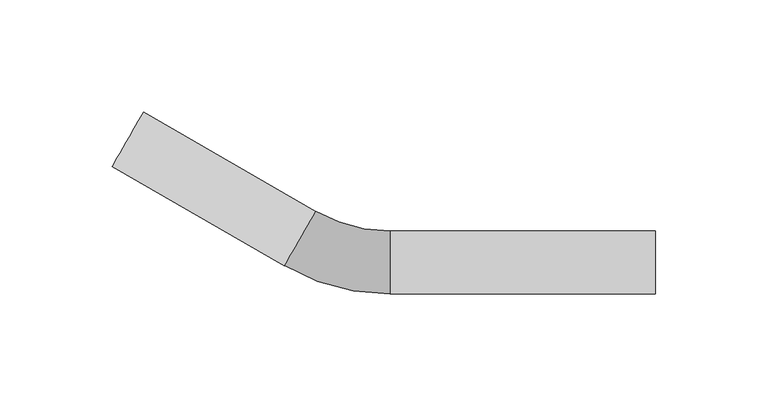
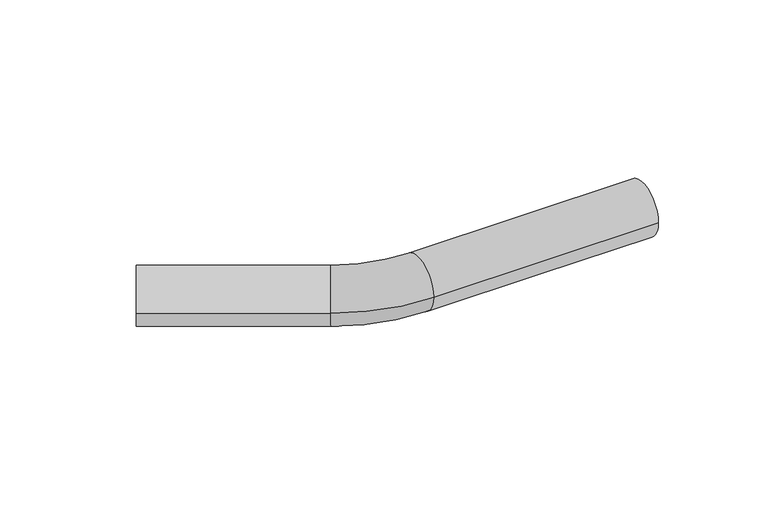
"""IFC4 building model written with IfcOpenShell, lengths in millimetres: pipe fitting geometry, VALTEC_VTi.955.I_Отвод безраструбный_нержавеющая : VTi.955.I."""

from ifc_helpers import new_model, si_unit, point, frame, origin, origin_2d, place, context, project, spatial, circle_curve, ellipse_curve, trimmed, segment, composite_curve, outline, extrude, source, transform, mapped, element, save
from ifc_brep_helpers import plane_surface, revolved_surface, advanced_brep


def pipe_fitting_fd74a3a0(model_context):
    return source(origin(), model_context, "Body", "SolidModel", [
        advanced_brep(
        [(21.6, -14.0, 0.0), (21.6, 14.0, 0.0), (-25.4, -1.406388, 0.0), (-11.4, 22.8423234, 0.0)],
        [
            (0, 1, circle_curve(frame((21.6, 0.0, 0.0), z_axis=(1.0, 0.0, 0.0), x_axis=(0.0, 1.0, 0.0)), 14.0)),
            (1, 0, circle_curve(frame((21.6, 0.0, 0.0), z_axis=(1.0, 0.0, 0.0), x_axis=(0.0, 1.0, 0.0)), 14.0)),
            (2, 3, circle_curve(frame((-18.4, 10.7179677, 0.0), z_axis=(-0.8660254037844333, 0.5000000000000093, 0.0), x_axis=(0.5000000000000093, 0.8660254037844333, 0.0)), 14.0)),
            (3, 2, circle_curve(frame((-18.4, 10.7179677, 0.0), z_axis=(-0.8660254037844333, 0.5000000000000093, 0.0), x_axis=(0.5000000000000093, 0.8660254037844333, 0.0)), 14.0)),
            (2, 0, circle_curve(frame((21.6, 80.0, 0.0), z_axis=(0.0, 0.0, 1.0), x_axis=(0.0, -1.0, 0.0)), 94.0)),
            (1, 3, circle_curve(frame((21.6, 80.0, 0.0), z_axis=(0.0, 0.0, -1.0), x_axis=(0.0, -1.0, 0.0)), 66.0)),
        ],
        [
            plane_surface(frame((21.6, 0.0, 0.0), z_axis=(1.0, 0.0, 0.0), x_axis=(0.0, 0.0, 1.0))),
            plane_surface(frame((-18.4, 10.7179677, 0.0), z_axis=(-0.8660254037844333, 0.5000000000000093, 0.0), x_axis=(0.0, 0.0, 1.0))),
            revolved_surface(trimmed(ellipse_curve(frame((21.6, 0.0, 0.0), z_axis=(-1.0, 0.0, 0.0), x_axis=(0.0, 1.0, 0.0)), 14.0, 14.0), [point((21.6, -14.0, 0.0))], [point((21.6, 14.0, 0.0))], True, "CARTESIAN"), (21.6, 80.0, 0.0), (0.0, 0.0, 1.0)),
            revolved_surface(trimmed(ellipse_curve(frame((21.6, 0.0, 0.0), z_axis=(-1.0, 0.0, 0.0), x_axis=(0.0, 1.0, 0.0)), 14.0, 14.0), [point((21.6, 14.0, 0.0))], [point((21.6, -14.0, 0.0))], True, "CARTESIAN"), (21.6, 80.0, 0.0), (0.0, 0.0, 1.0)),
        ],
        [
            (0, [[1, 2]]),
            (1, [[3, 4]]),
            (2, [[-3, 5, -2, 6]]),
            (3, [[-4, -6, -1, -5]]),
        ],
    ),
        extrude(outline(composite_curve([segment(trimmed(circle_curve(origin_2d(), 14.0), [point((0.0, 14.0))], [point((0.0, -14.0))], False, "CARTESIAN"), True, "CONTINUOUS"), segment(trimmed(circle_curve(origin_2d(), 14.0), [point((0.0, -14.0))], [point((0.0, 14.0))], False, "CARTESIAN"), True, "CONTINUOUS")], self_intersect=False)), frame((-18.4463411, 10.65, 0.0), z_axis=(-0.8660254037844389, 0.4999999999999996, 0.0), x_axis=(0.0, 0.0, 1.0)), (0.0, 0.0, 1.0), 88.7),
        extrude(outline(composite_curve([segment(trimmed(circle_curve(origin_2d(), 14.0), [point((14.0, 0.0))], [point((-14.0, 0.0))], False, "CARTESIAN"), True, "CONTINUOUS"), segment(trimmed(circle_curve(origin_2d(), 14.0), [point((-14.0, 0.0))], [point((14.0, 0.0))], False, "CARTESIAN"), True, "CONTINUOUS")], self_intersect=False)), frame((21.6, 0.0, 0.0), z_axis=(1.0, 0.0, 0.0), x_axis=(0.0, 1.0, 0.0)), (0.0, 0.0, 1.0), 118.4),
    ])


if __name__ == "__main__":
    model = new_model("IFC4")
    model_context = context("Model", 3, world=origin())
    ifc_project = project(units=[si_unit("LENGTHUNIT", "METRE", prefix="MILLI")], contexts=[model_context])
    site = spatial("IfcSite", under=ifc_project)
    building = spatial("IfcBuilding", under=site)
    placement = place(None, origin())
    pipe_fitting_shape = pipe_fitting_fd74a3a0(model_context)
    element("IfcPipeFitting", 1, ObjectType="VALTEC_VTi.955.I_Отвод безраструбный_нержавеющая : VTi.955.I", at=placement, inside=building, context=model_context, shape_type="MappedRepresentation", body=[
        mapped(pipe_fitting_shape, transform((0.0, 0.0, 0.0), x_axis=(1.0, 0.0, 0.0), y_axis=(0.0, 1.0, 0.0), z_axis=(0.0, 0.0, 1.0))),
    ])
    save(model, "model.ifc")
